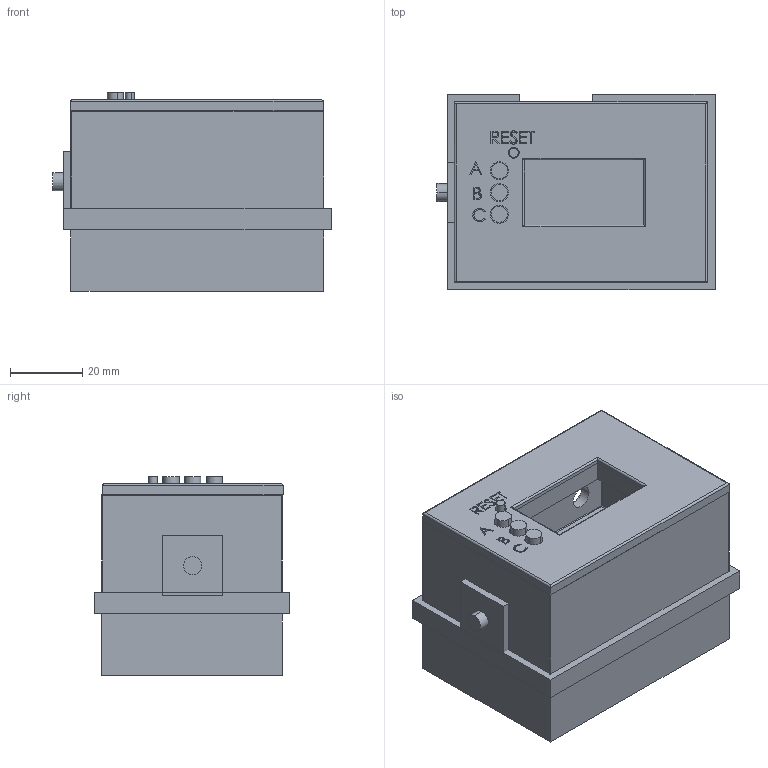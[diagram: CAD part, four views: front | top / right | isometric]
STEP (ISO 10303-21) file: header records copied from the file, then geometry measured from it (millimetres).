
FILE_DESCRIPTION (( 'STEP AP214' ), '1' );
FILE_NAME ('LoRa Unit.STEP', '2024-05-23T14:09:13', ( '' ), ( '' ), 'SwSTEP 2.0', 'SolidWorks 2023', '' );
FILE_SCHEMA (( 'AUTOMOTIVE_DESIGN' ));
Length unit declared in the file: millimetre
Products named in the file (7): Lid; plugg; LoRa Unit; button re; battery_box; button; Box
Assembly tree (8 placements, depth 2):
  LoRa Unit
    Box
    Lid
    button  x3
    button re
    plugg
    battery_box
Bounding box: 77 x 54 x 55 mm (x, y, z)
Volume: 74751 mm3; surface area: 50311.6 mm2
Topology: 8 solids, 8 shells, 346 faces, 842 edges, 530 vertices
Faces by surface type: plane 194, cylinder 94, bspline 38, sphere 12, torus 8
Entity records: 11816 total; most frequent: CARTESIAN_POINT 3939, ORIENTED_EDGE 1612, DIRECTION 1492, EDGE_CURVE 806, VECTOR 558, LINE 558, VERTEX_POINT 514, AXIS2_PLACEMENT_3D 467
